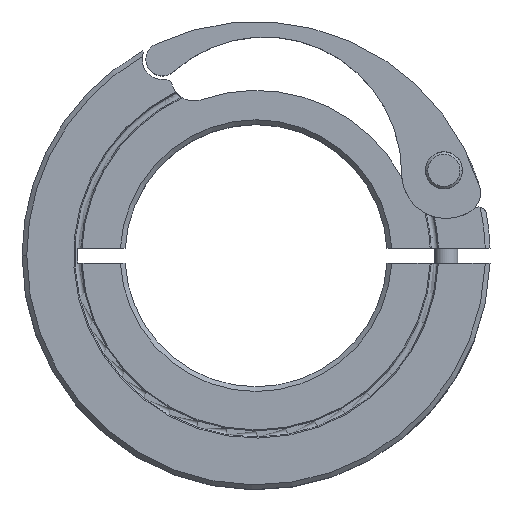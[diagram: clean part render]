
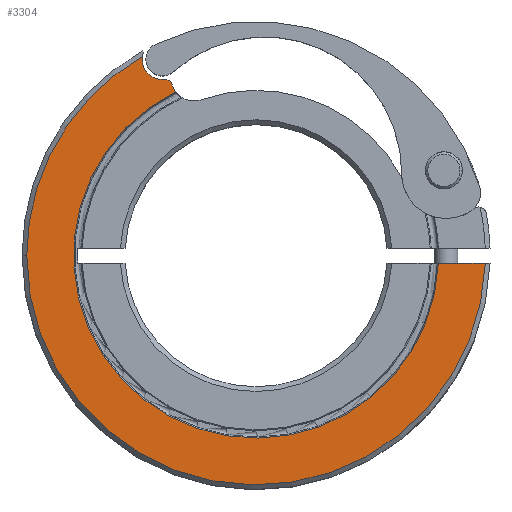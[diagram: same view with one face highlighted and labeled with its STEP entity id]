
A CAD part, top view. The second image highlights one B-rep face of the part: STEP entity #3304.
In plain terms, the highlighted planar face has unit normal (0, 0, 1).
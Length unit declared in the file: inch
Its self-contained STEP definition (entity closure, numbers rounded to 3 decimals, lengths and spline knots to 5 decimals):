
#120 = VERTEX_POINT ( 'NONE', #555 ) ;
#135 = CARTESIAN_POINT ( 'NONE',  ( -0.38564, 0.7411, 0.25 ) ) ;
#202 = DIRECTION ( 'NONE',  ( 0., 0., 1. ) ) ;
#216 = DIRECTION ( 'NONE',  ( -1., 0., 0. ) ) ;
#238 = AXIS2_PLACEMENT_3D ( 'NONE', #1082, #1367, #216 ) ;
#258 = CARTESIAN_POINT ( 'NONE',  ( 0., 0., 0.25 ) ) ;
#340 = VERTEX_POINT ( 'NONE', #2245 ) ;
#407 = ORIENTED_EDGE ( 'NONE', *, *, #2715, .T. ) ;
#473 = AXIS2_PLACEMENT_3D ( 'NONE', #818, #2850, #3645 ) ;
#485 = DIRECTION ( 'NONE',  ( 0., 0., 1. ) ) ;
#555 = CARTESIAN_POINT ( 'NONE',  ( -0.96425, 0., 0.25 ) ) ;
#709 = VECTOR ( 'NONE', #725, 39.37008 ) ;
#715 = ORIENTED_EDGE ( 'NONE', *, *, #3694, .T. ) ;
#725 = DIRECTION ( 'NONE',  ( 1., 0., 0. ) ) ;
#759 = LINE ( 'NONE', #2743, #709 ) ;
#794 = CARTESIAN_POINT ( 'NONE',  ( 0., 0., 0.25 ) ) ;
#818 = CARTESIAN_POINT ( 'NONE',  ( -0.39374, 0.82543, 0.25 ) ) ;
#833 = DIRECTION ( 'NONE',  ( 1., 0., 0. ) ) ;
#842 = ORIENTED_EDGE ( 'NONE', *, *, #2558, .F. ) ;
#1044 = EDGE_CURVE ( 'NONE', #1898, #1787, #2969, .T. ) ;
#1082 = CARTESIAN_POINT ( 'NONE',  ( -0.26236, 0.74399, 0.25 ) ) ;
#1118 = DIRECTION ( 'NONE',  ( 1., 0., 0. ) ) ;
#1133 = CARTESIAN_POINT ( 'NONE',  ( -0.33814, 0.6888, 0.25 ) ) ;
#1333 = DIRECTION ( 'NONE',  ( 1., 0., 0. ) ) ;
#1367 = DIRECTION ( 'NONE',  ( 0., 0., 1. ) ) ;
#1611 = CARTESIAN_POINT ( 'NONE',  ( -0.38265, 0.70999, 0.25 ) ) ;
#1674 = CIRCLE ( 'NONE', #3212, 0.96425 ) ;
#1711 = DIRECTION ( 'NONE',  ( 0., 0., 1. ) ) ;
#1787 = VERTEX_POINT ( 'NONE', #2496 ) ;
#1810 = VERTEX_POINT ( 'NONE', #1952 ) ;
#1851 = DIRECTION ( 'NONE',  ( 0., 0., 1. ) ) ;
#1898 = VERTEX_POINT ( 'NONE', #1133 ) ;
#1952 = CARTESIAN_POINT ( 'NONE',  ( -0.47757, 0.83768, 0.25 ) ) ;
#1964 = EDGE_LOOP ( 'NONE', ( #2713, #2306, #2717, #407, #842, #2765, #715 ) ) ;
#2007 = CIRCLE ( 'NONE', #238, 0.09375 ) ;
#2035 = CIRCLE ( 'NONE', #3305, 0.96425 ) ;
#2245 = CARTESIAN_POINT ( 'NONE',  ( 0.96375, -0.03125, 0.25 ) ) ;
#2271 = VERTEX_POINT ( 'NONE', #2863 ) ;
#2306 = ORIENTED_EDGE ( 'NONE', *, *, #1044, .F. ) ;
#2434 = DIRECTION ( 'NONE',  ( 1., 0., 0. ) ) ;
#2496 = CARTESIAN_POINT ( 'NONE',  ( 0.76668, -0.03125, 0.25 ) ) ;
#2505 = VERTEX_POINT ( 'NONE', #135 ) ;
#2517 = PLANE ( 'NONE',  #3679 ) ;
#2558 = EDGE_CURVE ( 'NONE', #1810, #2505, #3312, .T. ) ;
#2567 = DIRECTION ( 'NONE',  ( 1., 0., 0. ) ) ;
#2583 = FACE_OUTER_BOUND ( 'NONE', #1964, .T. ) ;
#2607 = EDGE_CURVE ( 'NONE', #1787, #340, #759, .T. ) ;
#2650 = AXIS2_PLACEMENT_3D ( 'NONE', #3632, #202, #2567 ) ;
#2685 = CARTESIAN_POINT ( 'NONE',  ( 0., 0., 0.25 ) ) ;
#2713 = ORIENTED_EDGE ( 'NONE', *, *, #2607, .F. ) ;
#2715 = EDGE_CURVE ( 'NONE', #2271, #2505, #3098, .T. ) ;
#2717 = ORIENTED_EDGE ( 'NONE', *, *, #2894, .F. ) ;
#2743 = CARTESIAN_POINT ( 'NONE',  ( 0., -0.03125, 0.25 ) ) ;
#2765 = ORIENTED_EDGE ( 'NONE', *, *, #3247, .T. ) ;
#2829 = DIRECTION ( 'NONE',  ( 0., 0., 1. ) ) ;
#2850 = DIRECTION ( 'NONE',  ( 0., 0., 1. ) ) ;
#2863 = CARTESIAN_POINT ( 'NONE',  ( -0.35257, 0.71849, 0.25 ) ) ;
#2894 = EDGE_CURVE ( 'NONE', #2271, #1898, #2007, .T. ) ;
#2969 = CIRCLE ( 'NONE', #2650, 0.76732 ) ;
#2993 = AXIS2_PLACEMENT_3D ( 'NONE', #1611, #485, #1333 ) ;
#3098 = CIRCLE ( 'NONE', #2993, 0.03125 ) ;
#3212 = AXIS2_PLACEMENT_3D ( 'NONE', #2685, #1851, #2434 ) ;
#3247 = EDGE_CURVE ( 'NONE', #1810, #120, #2035, .T. ) ;
#3304 = ADVANCED_FACE ( 'NONE', ( #2583 ), #2517, .T. ) ;
#3305 = AXIS2_PLACEMENT_3D ( 'NONE', #258, #1711, #833 ) ;
#3312 = CIRCLE ( 'NONE', #473, 0.08472 ) ;
#3632 = CARTESIAN_POINT ( 'NONE',  ( 0., 0., 0.25 ) ) ;
#3645 = DIRECTION ( 'NONE',  ( 1., 0., 0. ) ) ;
#3679 = AXIS2_PLACEMENT_3D ( 'NONE', #794, #2829, #1118 ) ;
#3694 = EDGE_CURVE ( 'NONE', #120, #340, #1674, .T. ) ;
